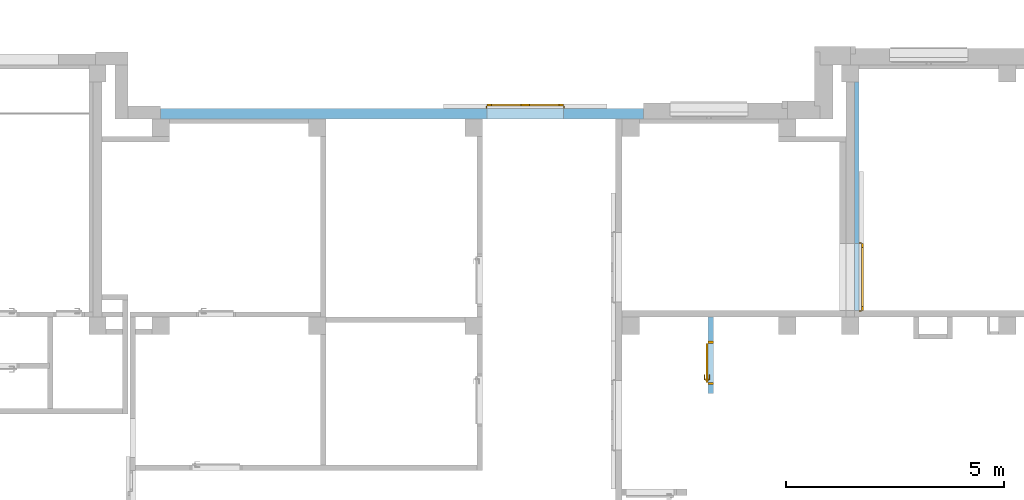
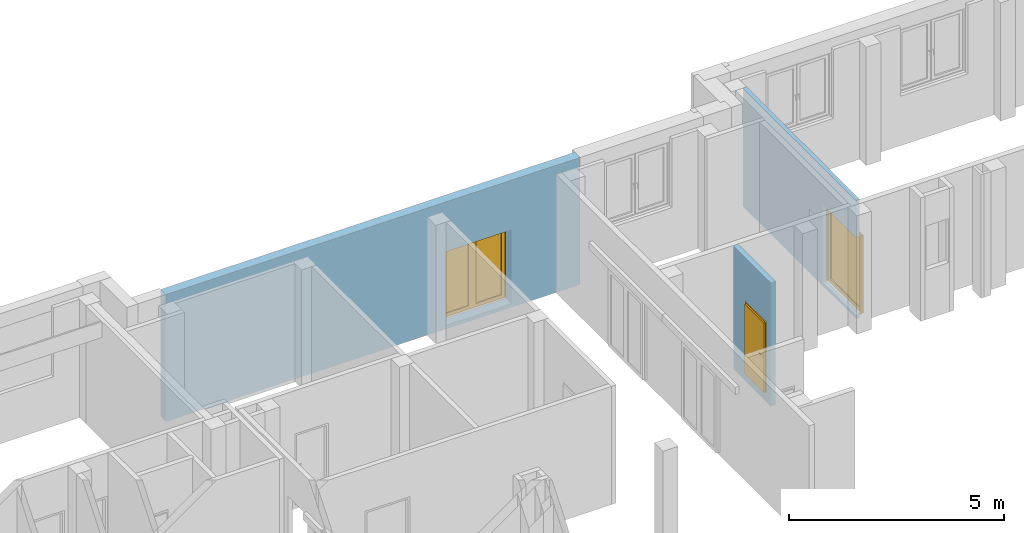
# One storey, part 31 of 37: 3 doors, 3 openings, plus 3 elements that do not belong to this part.
"""IFC4 building model written with IfcOpenShell, lengths in metres."""

from ifc_helpers import new_model, entity, si_unit, converted_unit, derived_unit, frame, frame_2d, origin, origin_with_axes, place, context, subcontext, project, spatial, polyline, rectangle, outline, extrude, closed_shell, open_shell, surface_model, source, transform, mapped, material, layer, layer_set, layer_usage, type_object, element, fill, save


model = new_model("IFC4")

# Units and contexts
model_context = context("Model", 3, precision=1e-05, world=origin())
body_context = subcontext(model_context, "Body", "Model", "MODEL_VIEW")
ifc_project = project(units=[si_unit("LENGTHUNIT", "METRE"), si_unit("AREAUNIT", "SQUARE_METRE"), si_unit("VOLUMEUNIT", "CUBIC_METRE"), si_unit("MASSUNIT", "GRAM", prefix="KILO"), converted_unit("PLANEANGLEUNIT", "DEGREE", entity("IfcPlaneAngleMeasure", 0.0174532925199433), si_unit("PLANEANGLEUNIT", "RADIAN"), dimensions=[0, 0, 0, 0, 0, 0, 0]), derived_unit("THERMALTRANSMITTANCEUNIT", [(si_unit("POWERUNIT", "WATT"), 1), (si_unit("THERMODYNAMICTEMPERATUREUNIT", "KELVIN"), -1), (si_unit("LENGTHUNIT", "METRE"), -2)]), derived_unit("VOLUMETRICFLOWRATEUNIT", [(si_unit("LENGTHUNIT", "METRE"), 3), (converted_unit("TIMEUNIT", "hour", entity("IfcTimeMeasure", 3600.0), si_unit("TIMEUNIT", "SECOND"), dimensions=[0, 0, 1, 0, 0, 0, 0]), -1), (si_unit("LENGTHUNIT", "METRE"), -1)])], contexts=[model_context])

# Site, building, storey
site_placement = place(None, origin())
site = spatial("IfcSite", under=ifc_project, at=site_placement, Name="3. ASŘ", CompositionType="ELEMENT")
building_placement = place(site_placement, origin())
building = spatial("IfcBuilding", under=site, at=building_placement, Name="Pavilon B", CompositionType="ELEMENT")
storey_placement = place(building_placement, origin())
storey = spatial("IfcBuildingStorey", under=building, at=storey_placement, Name="Půdorys 1.NP", CompositionType="ELEMENT", Elevation=0.0)

# Wall, opening, door
ifc_material_1 = material(Name="ZELEZOBETONOVÁ KCE")
ifc_layer_1 = layer(ifc_material_1, 0.249999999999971)
ifc_layer_set_1 = layer_set([ifc_layer_1])
ifc_layer_usage_1 = layer_usage(ifc_layer_set_1, "AXIS2", "POSITIVE", 0.0)
wall_1_placement = place(storey_placement, frame((33.25, -16.85, -0.1)))
wall_1 = element("IfcWall", 1, at=wall_1_placement, inside=storey, material=ifc_layer_usage_1, Name="ZELEZOBETONOVÁ KCE", context=body_context, shape_type="SweptSolid", body=[
    extrude(rectangle(XDim=11.1, YDim=0.249999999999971, at=frame_2d((5.55, 0.124999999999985), x_axis=(1.0, 0.0))), origin_with_axes(), (0.0, 0.0, 1.0), 3.6),
])
opening_1_placement = place(wall_1_placement, frame((9.26, 0.249999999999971, 0.1), z_axis=(0.0, -1.0, 0.0), x_axis=(0.0, 0.0, 1.0)))
opening_1 = element("IfcOpeningElement", 2, at=opening_1_placement, cuts=wall_1, Name="Dveřní otvor", ObjectType="Opening", context=body_context, shape_type="SweptSolid", body=[
    extrude(outline(polyline([(0.0, 1.76), (2.1, 1.76), (2.1, 0.0), (0.0, 0.0), (0.0, 1.76)])), origin_with_axes(), (0.0, 0.0, 1.0), 0.249999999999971),
])
door_type_1 = type_object("IfcDoorType", Name="D401", OperationType="NOTDEFINED", ParameterTakesPrecedence=False, PredefinedType="DOOR")
shared_shape_1 = source(origin_with_axes(), body_context, "Body", "SurfaceModel", [
    surface_model("IfcShellBasedSurfaceModel", [(0.0, 0.0500000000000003, 2.12), (0.0, 0.05, 1.11492377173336e-17), (0.02, 0.05, 1.11492377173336e-17), (0.02, 0.0500000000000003, 2.12), (0.0, 0.0, 1.72724717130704e-17), (0.0, 2.62900812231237e-16, 2.12), (0.02, 2.62900812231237e-16, 2.12), (0.02, 0.0, 1.72724717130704e-17)], [closed_shell([[[0, 1, 2, 3]], [[4, 5, 6, 7]], [[1, 0, 5, 4]], [[2, 1, 4, 7]], [[3, 2, 7, 6]], [[0, 3, 6, 5]]], orient=[[False], [False], [False], [False], [False], [False]])]),
    surface_model("IfcShellBasedSurfaceModel", [(1.78, 0.0500000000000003, 2.12), (1.78, 0.05, 1.11492377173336e-17), (1.8, 0.05, 1.11492377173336e-17), (1.8, 0.0500000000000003, 2.12), (1.78, 0.0, 1.72724717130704e-17), (1.78, 2.62900812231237e-16, 2.12), (1.8, 2.62900812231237e-16, 2.12), (1.8, 0.0, 1.72724717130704e-17)], [closed_shell([[[0, 1, 2, 3]], [[4, 5, 6, 7]], [[1, 0, 5, 4]], [[2, 1, 4, 7]], [[3, 2, 7, 6]], [[0, 3, 6, 5]]], orient=[[False], [False], [False], [False], [False], [False]])]),
    surface_model("IfcShellBasedSurfaceModel", [(0.02, 0.0500000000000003, 2.12), (0.02, 0.0500000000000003, 2.1), (1.78, 0.0500000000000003, 2.1), (1.78, 0.0500000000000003, 2.12), (0.02, 2.55795384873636e-16, 2.1), (0.02, 2.55795384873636e-16, 2.12), (1.78, 2.55795384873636e-16, 2.12), (1.78, 2.55795384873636e-16, 2.1)], [closed_shell([[[0, 1, 2, 3]], [[4, 5, 6, 7]], [[1, 0, 5, 4]], [[2, 1, 4, 7]], [[3, 2, 7, 6]], [[0, 3, 6, 5]]], orient=[[False], [False], [False], [False], [False], [False]])]),
    surface_model("IfcShellBasedSurfaceModel", [(0.02, 0.1, 2.1), (0.02, 0.1, 5.02600372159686e-18), (0.12, 0.1, 5.02600372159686e-18), (0.12, 0.1, 2.1), (0.02, 0.05, 1.11492377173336e-17), (0.02, 0.0500000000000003, 2.1), (0.12, 0.0500000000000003, 2.1), (0.12, 0.05, 1.11492377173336e-17)], [closed_shell([[[0, 1, 2, 3]], [[4, 5, 6, 7]], [[1, 0, 5, 4]], [[2, 1, 4, 7]], [[3, 2, 7, 6]], [[0, 3, 6, 5]]], orient=[[False], [False], [False], [False], [False], [False]])]),
    surface_model("IfcShellBasedSurfaceModel", [(0.7995, 0.1, 2.1), (0.7995, 0.1, 5.02600372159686e-18), (0.8995, 0.1, 5.02600372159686e-18), (0.8995, 0.1, 2.1), (0.7995, 0.05, 1.11492377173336e-17), (0.7995, 0.0500000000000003, 2.1), (0.8995, 0.0500000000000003, 2.1), (0.8995, 0.05, 1.11492377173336e-17)], [closed_shell([[[0, 1, 2, 3]], [[4, 5, 6, 7]], [[1, 0, 5, 4]], [[2, 1, 4, 7]], [[3, 2, 7, 6]], [[0, 3, 6, 5]]], orient=[[False], [False], [False], [False], [False], [False]])]),
    surface_model("IfcShellBasedSurfaceModel", [(0.12, 0.1, 0.1), (0.12, 0.1, 5.02600372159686e-18), (0.7995, 0.1, 5.02600372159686e-18), (0.7995, 0.1, 0.1), (0.12, 0.05, 1.11492377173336e-17), (0.12, 0.05, 0.1), (0.7995, 0.05, 0.1), (0.7995, 0.05, 1.11492377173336e-17)], [closed_shell([[[0, 1, 2, 3]], [[4, 5, 6, 7]], [[1, 0, 5, 4]], [[2, 1, 4, 7]], [[3, 2, 7, 6]], [[0, 3, 6, 5]]], orient=[[False], [False], [False], [False], [False], [False]])]),
    surface_model("IfcShellBasedSurfaceModel", [(0.12, 0.1, 2.1), (0.12, 0.1, 2.0), (0.7995, 0.1, 2.0), (0.7995, 0.1, 2.1), (0.12, 0.0500000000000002, 2.0), (0.12, 0.0500000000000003, 2.1), (0.7995, 0.0500000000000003, 2.1), (0.7995, 0.0500000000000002, 2.0)], [closed_shell([[[0, 1, 2, 3]], [[4, 5, 6, 7]], [[1, 0, 5, 4]], [[2, 1, 4, 7]], [[3, 2, 7, 6]], [[0, 3, 6, 5]]], orient=[[False], [False], [False], [False], [False], [False]])]),
    surface_model("IfcShellBasedSurfaceModel", [(0.9005, 0.1, 2.1), (0.9005, 0.1, 5.02600372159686e-18), (1.0005, 0.1, 5.02600372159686e-18), (1.0005, 0.1, 2.1), (0.9005, 0.05, 1.11492377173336e-17), (0.9005, 0.0500000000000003, 2.1), (1.0005, 0.0500000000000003, 2.1), (1.0005, 0.05, 1.11492377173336e-17)], [closed_shell([[[0, 1, 2, 3]], [[4, 5, 6, 7]], [[1, 0, 5, 4]], [[2, 1, 4, 7]], [[3, 2, 7, 6]], [[0, 3, 6, 5]]], orient=[[False], [False], [False], [False], [False], [False]])]),
    surface_model("IfcShellBasedSurfaceModel", [(1.68, 0.1, 2.1), (1.68, 0.1, 5.02600372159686e-18), (1.78, 0.1, 5.02600372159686e-18), (1.78, 0.1, 2.1), (1.68, 0.05, 1.11492377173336e-17), (1.68, 0.0500000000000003, 2.1), (1.78, 0.0500000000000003, 2.1), (1.78, 0.05, 1.11492377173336e-17)], [closed_shell([[[0, 1, 2, 3]], [[4, 5, 6, 7]], [[1, 0, 5, 4]], [[2, 1, 4, 7]], [[3, 2, 7, 6]], [[0, 3, 6, 5]]], orient=[[False], [False], [False], [False], [False], [False]])]),
    surface_model("IfcShellBasedSurfaceModel", [(1.0005, 0.1, 0.1), (1.0005, 0.1, 5.02600372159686e-18), (1.68, 0.1, 5.02600372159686e-18), (1.68, 0.1, 0.1), (1.0005, 0.05, 1.11492377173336e-17), (1.0005, 0.05, 0.1), (1.68, 0.05, 0.1), (1.68, 0.05, 1.11492377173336e-17)], [closed_shell([[[0, 1, 2, 3]], [[4, 5, 6, 7]], [[1, 0, 5, 4]], [[2, 1, 4, 7]], [[3, 2, 7, 6]], [[0, 3, 6, 5]]], orient=[[False], [False], [False], [False], [False], [False]])]),
    surface_model("IfcShellBasedSurfaceModel", [(1.0005, 0.1, 2.1), (1.0005, 0.1, 2.0), (1.68, 0.1, 2.0), (1.68, 0.1, 2.1), (1.0005, 0.0500000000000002, 2.0), (1.0005, 0.0500000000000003, 2.1), (1.68, 0.0500000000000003, 2.1), (1.68, 0.0500000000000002, 2.0)], [closed_shell([[[0, 1, 2, 3]], [[4, 5, 6, 7]], [[1, 0, 5, 4]], [[2, 1, 4, 7]], [[3, 2, 7, 6]], [[0, 3, 6, 5]]], orient=[[False], [False], [False], [False], [False], [False]])]),
    surface_model("IfcShellBasedSurfaceModel", [(1.0005, 0.075, 0.1), (1.68, 0.075, 0.1), (1.68, 0.0750000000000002, 2.0), (1.0005, 0.0750000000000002, 2.0)], [open_shell([[[0, 1, 2, 3]]], orient=[[False]])]),
    surface_model("IfcShellBasedSurfaceModel", [(0.12, 0.075, 0.1), (0.7995, 0.075, 0.1), (0.7995, 0.0750000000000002, 2.0), (0.12, 0.0750000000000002, 2.0)], [open_shell([[[0, 1, 2, 3]]], orient=[[False]])]),
])
door_1_placement = place(opening_1_placement, frame((0.0, -0.02, 0.0), z_axis=(1.0, 0.0, 0.0), x_axis=(0.0, 1.0, -2.44929359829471e-16)))
door_1 = element("IfcDoor", 3, at=door_1_placement, inside=storey, type_object=door_type_1, Name="D401", OverallHeight=2.14, OverallWidth=1.84, context=body_context, shape_type="MappedRepresentation", body=[
    mapped(shared_shape_1, transform((0.0, 0.0, 0.0), x_axis=(1.0, 0.0, 0.0), y_axis=(0.0, -1.0, 0.0), z_axis=(0.0, 0.0, 1.0), scale=1.0)),
])
fill(opening_1, door_1)

ifc_material_2 = material(Name="YTONG 125")
ifc_layer_2 = layer(ifc_material_2, 0.125)
ifc_layer_set_2 = layer_set([ifc_layer_2])
ifc_layer_usage_2 = layer_usage(ifc_layer_set_2, "AXIS2", "POSITIVE", 0.0)
wall_2_placement = place(storey_placement, frame((45.825, -21.4, -0.25), z_axis=(0.0, 0.0, 1.0), x_axis=(0.0, -1.0, 0.0)))
wall_2 = element("IfcWall", 4, at=wall_2_placement, inside=storey, material=ifc_layer_usage_2, Name="YTONG 125", context=body_context, shape_type="SweptSolid", body=[
    extrude(rectangle(XDim=1.75, YDim=0.125, at=frame_2d((0.875, 0.0625), x_axis=(1.0, 0.0))), origin_with_axes(), (0.0, 0.0, 1.0), 3.5),
])
opening_2_placement = place(wall_2_placement, frame((1.55000000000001, 0.125, 0.25), z_axis=(0.0, -1.0, 0.0), x_axis=(0.0, 0.0, 1.0)))
opening_2 = element("IfcOpeningElement", 5, at=opening_2_placement, cuts=wall_2, Name="Dveřní otvor", ObjectType="Opening", context=body_context, shape_type="SweptSolid", body=[
    extrude(outline(polyline([(0.0, 1.0), (2.02, 1.0), (2.02, 0.0), (0.0, 0.0), (0.0, 1.0)])), origin_with_axes(), (0.0, 0.0, 1.0), 0.125),
])
door_type_2 = type_object("IfcDoorType", Name="D101", OperationType="NOTDEFINED", ParameterTakesPrecedence=False, PredefinedType="DOOR")
shared_shape_2 = source(origin_with_axes(), body_context, "Body", "SurfaceModel", [
    surface_model("IfcShellBasedSurfaceModel", [(0.0, 0.125, 2.02), (0.0, 0.125, -7.65404249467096e-18), (0.05, 0.125, -7.65404249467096e-18), (0.05, 0.125, 2.02), (0.0, 0.0, 7.65404249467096e-18), (0.0, 2.41584530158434e-16, 2.02), (0.05, 2.41584530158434e-16, 2.02), (0.05, 0.0, 7.65404249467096e-18)], [closed_shell([[[0, 1, 2, 3]], [[4, 5, 6, 7]], [[1, 0, 5, 4]], [[2, 1, 4, 7]], [[3, 2, 7, 6]], [[0, 3, 6, 5]]], orient=[[False], [False], [False], [False], [False], [False]])]),
    surface_model("IfcShellBasedSurfaceModel", [(0.95, 0.125, 2.02), (0.95, 0.125, -7.65404249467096e-18), (1.0, 0.125, -7.65404249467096e-18), (1.0, 0.125, 2.02), (0.95, 0.0, 7.65404249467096e-18), (0.95, 2.41584530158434e-16, 2.02), (1.0, 2.41584530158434e-16, 2.02), (1.0, 0.0, 7.65404249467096e-18)], [closed_shell([[[0, 1, 2, 3]], [[4, 5, 6, 7]], [[1, 0, 5, 4]], [[2, 1, 4, 7]], [[3, 2, 7, 6]], [[0, 3, 6, 5]]], orient=[[False], [False], [False], [False], [False], [False]])]),
    surface_model("IfcShellBasedSurfaceModel", [(0.05, 0.125, 2.02), (0.05, 0.125, 1.97), (0.95, 0.125, 1.97), (0.95, 0.125, 2.02), (0.05, 2.41584530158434e-16, 1.97), (0.05, 2.41584530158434e-16, 2.02), (0.95, 2.41584530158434e-16, 2.02), (0.95, 2.41584530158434e-16, 1.97)], [closed_shell([[[0, 1, 2, 3]], [[4, 5, 6, 7]], [[1, 0, 5, 4]], [[2, 1, 4, 7]], [[3, 2, 7, 6]], [[0, 3, 6, 5]]], orient=[[False], [False], [False], [False], [False], [False]])]),
    surface_model("IfcShellBasedSurfaceModel", [(0.05, 0.165, 1.97), (0.05, 0.165, -1.25526296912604e-17), (0.95, 0.165, -1.25526296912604e-17), (0.95, 0.165, 1.97), (0.05, 0.125, -7.65404249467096e-18), (0.05, 0.125, 1.97), (0.95, 0.125, 1.97), (0.95, 0.125, -7.65404249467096e-18)], [closed_shell([[[0, 1, 2, 3]], [[4, 5, 6, 7]], [[1, 0, 5, 4]], [[2, 1, 4, 7]], [[3, 2, 7, 6]], [[0, 3, 6, 5]]], orient=[[False], [False], [False], [False], [False], [False]])]),
    surface_model("IfcShellBasedSurfaceModel", [(0.908815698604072, 0.125, 0.93625), (0.9125, 0.125, 0.95), (0.908815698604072, 0.125, 0.96375), (0.89875, 0.125, 0.973815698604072), (0.885, 0.125, 0.9775), (0.87125, 0.125, 0.973815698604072), (0.861184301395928, 0.125, 0.96375), (0.8575, 0.125, 0.95), (0.861184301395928, 0.125, 0.93625), (0.87125, 0.125, 0.926184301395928), (0.885, 0.125, 0.9225), (0.89875, 0.125, 0.926184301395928), (0.9125, 0.1125, 0.95), (0.908815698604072, 0.1125, 0.93625), (0.89875, 0.1125, 0.926184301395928), (0.885, 0.1125, 0.9225), (0.87125, 0.1125, 0.926184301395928), (0.861184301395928, 0.1125, 0.93625), (0.8575, 0.1125, 0.95), (0.861184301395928, 0.1125, 0.96375), (0.87125, 0.1125, 0.973815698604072), (0.885, 0.1125, 0.9775), (0.89875, 0.1125, 0.973815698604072), (0.908815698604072, 0.1125, 0.96375)], [closed_shell([[[0, 1, 2, 3, 4, 5, 6, 7, 8, 9, 10, 11]], [[12, 13, 14, 15, 16, 17, 18, 19, 20, 21, 22, 23]], [[1, 0, 13, 12]], [[2, 1, 12, 23]], [[3, 2, 23, 22]], [[4, 3, 22, 21]], [[5, 4, 21, 20]], [[6, 5, 20, 19]], [[7, 6, 19, 18]], [[8, 7, 18, 17]], [[9, 8, 17, 16]], [[10, 9, 16, 15]], [[11, 10, 15, 14]], [[0, 11, 14, 13]]], orient=[[False], [False], [False], [False], [False], [False], [False], [False], [False], [False], [False], [False], [False], [False]])]),
    surface_model("IfcShellBasedSurfaceModel", [(0.908815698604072, 0.125, 1.03625), (0.9125, 0.125, 1.05), (0.908815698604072, 0.125, 1.06375), (0.89875, 0.125, 1.07381569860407), (0.885, 0.125, 1.0775), (0.87125, 0.125, 1.07381569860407), (0.861184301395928, 0.125, 1.06375), (0.8575, 0.125, 1.05), (0.861184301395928, 0.125, 1.03625), (0.87125, 0.125, 1.02618430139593), (0.885, 0.125, 1.0225), (0.89875, 0.125, 1.02618430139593), (0.9125, 0.1125, 1.05), (0.908815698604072, 0.1125, 1.03625), (0.89875, 0.1125, 1.02618430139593), (0.885, 0.1125, 1.0225), (0.87125, 0.1125, 1.02618430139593), (0.861184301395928, 0.1125, 1.03625), (0.8575, 0.1125, 1.05), (0.861184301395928, 0.1125, 1.06375), (0.87125, 0.1125, 1.07381569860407), (0.885, 0.1125, 1.0775), (0.89875, 0.1125, 1.07381569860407), (0.908815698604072, 0.1125, 1.06375)], [closed_shell([[[0, 1, 2, 3, 4, 5, 6, 7, 8, 9, 10, 11]], [[12, 13, 14, 15, 16, 17, 18, 19, 20, 21, 22, 23]], [[1, 0, 13, 12]], [[2, 1, 12, 23]], [[3, 2, 23, 22]], [[4, 3, 22, 21]], [[5, 4, 21, 20]], [[6, 5, 20, 19]], [[7, 6, 19, 18]], [[8, 7, 18, 17]], [[9, 8, 17, 16]], [[10, 9, 16, 15]], [[11, 10, 15, 14]], [[0, 11, 14, 13]]], orient=[[False], [False], [False], [False], [False], [False], [False], [False], [False], [False], [False], [False], [False], [False]])]),
    surface_model("IfcShellBasedSurfaceModel", [(0.885, 0.125, 1.06), (0.88, 0.125, 1.05866025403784), (0.876339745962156, 0.125, 1.055), (0.875, 0.125, 1.05), (0.876339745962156, 0.125, 1.045), (0.88, 0.125, 1.04133974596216), (0.885, 0.125, 1.04), (0.89, 0.125, 1.04133974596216), (0.893660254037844, 0.125, 1.045), (0.895, 0.125, 1.05), (0.893660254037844, 0.125, 1.055), (0.89, 0.125, 1.05866025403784), (0.89, 0.0800000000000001, 1.05866025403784), (0.885, 0.0850000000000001, 1.06), (0.893660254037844, 0.0763397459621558, 1.055), (0.895, 0.0750000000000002, 1.05), (0.893660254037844, 0.0763397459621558, 1.045), (0.89, 0.0800000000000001, 1.04133974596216), (0.885, 0.0850000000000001, 1.04), (0.88, 0.0900000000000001, 1.04133974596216), (0.876339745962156, 0.0936602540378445, 1.045), (0.875, 0.0950000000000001, 1.05), (0.876339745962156, 0.0936602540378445, 1.055), (0.88, 0.0900000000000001, 1.05866025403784), (0.77, 0.0800000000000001, 1.05866025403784), (0.77, 0.0850000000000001, 1.06), (0.77, 0.0763397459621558, 1.055), (0.77, 0.0750000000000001, 1.05), (0.77, 0.0763397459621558, 1.045), (0.77, 0.0800000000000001, 1.04133974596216), (0.77, 0.0850000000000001, 1.04), (0.77, 0.0900000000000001, 1.04133974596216), (0.77, 0.0936602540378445, 1.045), (0.77, 0.0950000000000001, 1.05), (0.77, 0.0936602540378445, 1.055), (0.77, 0.0900000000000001, 1.05866025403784)], [open_shell([[[0, 1, 2, 3, 4, 5, 6, 7, 8, 9, 10, 11]], [[0, 11, 12, 13]], [[11, 10, 14, 12]], [[10, 9, 15, 14]], [[9, 8, 16, 15]], [[8, 7, 17, 16]], [[7, 6, 18, 17]], [[6, 5, 19, 18]], [[5, 4, 20, 19]], [[4, 3, 21, 20]], [[3, 2, 22, 21]], [[2, 1, 23, 22]], [[1, 0, 13, 23]], [[13, 12, 24, 25]], [[12, 14, 26, 24]], [[14, 15, 27, 26]], [[15, 16, 28, 27]], [[16, 17, 29, 28]], [[17, 18, 30, 29]], [[18, 19, 31, 30]], [[19, 20, 32, 31]], [[20, 21, 33, 32]], [[21, 22, 34, 33]], [[22, 23, 35, 34]], [[23, 13, 25, 35]]], orient=[[False], [False], [False], [False], [False], [False], [False], [False], [False], [False], [False], [False], [False], [False], [False], [False], [False], [False], [False], [False], [False], [False], [False], [False], [False]])]),
    surface_model("IfcShellBasedSurfaceModel", [(0.908815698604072, 0.165, 0.93625), (0.89875, 0.165, 0.926184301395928), (0.885, 0.165, 0.9225), (0.87125, 0.165, 0.926184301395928), (0.861184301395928, 0.165, 0.93625), (0.8575, 0.165, 0.95), (0.861184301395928, 0.165, 0.96375), (0.87125, 0.165, 0.973815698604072), (0.885, 0.165, 0.9775), (0.89875, 0.165, 0.973815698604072), (0.908815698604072, 0.165, 0.96375), (0.9125, 0.165, 0.95), (0.9125, 0.1775, 0.95), (0.908815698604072, 0.1775, 0.96375), (0.89875, 0.1775, 0.973815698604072), (0.885, 0.1775, 0.9775), (0.87125, 0.1775, 0.973815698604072), (0.861184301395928, 0.1775, 0.96375), (0.8575, 0.1775, 0.95), (0.861184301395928, 0.1775, 0.93625), (0.87125, 0.1775, 0.926184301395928), (0.885, 0.1775, 0.9225), (0.89875, 0.1775, 0.926184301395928), (0.908815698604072, 0.1775, 0.93625)], [closed_shell([[[0, 1, 2, 3, 4, 5, 6, 7, 8, 9, 10, 11]], [[12, 13, 14, 15, 16, 17, 18, 19, 20, 21, 22, 23]], [[11, 12, 23, 0]], [[10, 13, 12, 11]], [[9, 14, 13, 10]], [[8, 15, 14, 9]], [[7, 16, 15, 8]], [[6, 17, 16, 7]], [[5, 18, 17, 6]], [[4, 19, 18, 5]], [[3, 20, 19, 4]], [[2, 21, 20, 3]], [[1, 22, 21, 2]], [[0, 23, 22, 1]]], orient=[[False], [False], [False], [False], [False], [False], [False], [False], [False], [False], [False], [False], [False], [False]])]),
    surface_model("IfcShellBasedSurfaceModel", [(0.908815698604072, 0.165, 1.03625), (0.89875, 0.165, 1.02618430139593), (0.885, 0.165, 1.0225), (0.87125, 0.165, 1.02618430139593), (0.861184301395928, 0.165, 1.03625), (0.8575, 0.165, 1.05), (0.861184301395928, 0.165, 1.06375), (0.87125, 0.165, 1.07381569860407), (0.885, 0.165, 1.0775), (0.89875, 0.165, 1.07381569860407), (0.908815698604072, 0.165, 1.06375), (0.9125, 0.165, 1.05), (0.9125, 0.1775, 1.05), (0.908815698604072, 0.1775, 1.06375), (0.89875, 0.1775, 1.07381569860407), (0.885, 0.1775, 1.0775), (0.87125, 0.1775, 1.07381569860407), (0.861184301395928, 0.1775, 1.06375), (0.8575, 0.1775, 1.05), (0.861184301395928, 0.1775, 1.03625), (0.87125, 0.1775, 1.02618430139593), (0.885, 0.1775, 1.0225), (0.89875, 0.1775, 1.02618430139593), (0.908815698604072, 0.1775, 1.03625)], [closed_shell([[[0, 1, 2, 3, 4, 5, 6, 7, 8, 9, 10, 11]], [[12, 13, 14, 15, 16, 17, 18, 19, 20, 21, 22, 23]], [[11, 12, 23, 0]], [[10, 13, 12, 11]], [[9, 14, 13, 10]], [[8, 15, 14, 9]], [[7, 16, 15, 8]], [[6, 17, 16, 7]], [[5, 18, 17, 6]], [[4, 19, 18, 5]], [[3, 20, 19, 4]], [[2, 21, 20, 3]], [[1, 22, 21, 2]], [[0, 23, 22, 1]]], orient=[[False], [False], [False], [False], [False], [False], [False], [False], [False], [False], [False], [False], [False], [False]])]),
    surface_model("IfcShellBasedSurfaceModel", [(0.885, 0.165, 1.06), (0.89, 0.165, 1.05866025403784), (0.893660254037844, 0.165, 1.055), (0.895, 0.165, 1.05), (0.893660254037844, 0.165, 1.045), (0.89, 0.165, 1.04133974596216), (0.885, 0.165, 1.04), (0.88, 0.165, 1.04133974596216), (0.876339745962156, 0.165, 1.045), (0.875, 0.165, 1.05), (0.876339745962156, 0.165, 1.055), (0.88, 0.165, 1.05866025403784), (0.885, 0.205, 1.06), (0.89, 0.21, 1.05866025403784), (0.893660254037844, 0.213660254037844, 1.055), (0.895, 0.215, 1.05), (0.893660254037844, 0.213660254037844, 1.045), (0.89, 0.21, 1.04133974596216), (0.885, 0.205, 1.04), (0.88, 0.2, 1.04133974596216), (0.876339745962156, 0.196339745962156, 1.045), (0.875, 0.195, 1.05), (0.876339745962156, 0.196339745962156, 1.055), (0.88, 0.2, 1.05866025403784), (0.77, 0.205, 1.06), (0.77, 0.21, 1.05866025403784), (0.77, 0.213660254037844, 1.055), (0.77, 0.215, 1.05), (0.77, 0.213660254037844, 1.045), (0.77, 0.21, 1.04133974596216), (0.77, 0.205, 1.04), (0.77, 0.2, 1.04133974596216), (0.77, 0.196339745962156, 1.045), (0.77, 0.195, 1.05), (0.77, 0.196339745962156, 1.055), (0.77, 0.2, 1.05866025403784)], [open_shell([[[0, 1, 2, 3, 4, 5, 6, 7, 8, 9, 10, 11]], [[0, 12, 13, 1]], [[1, 13, 14, 2]], [[2, 14, 15, 3]], [[3, 15, 16, 4]], [[4, 16, 17, 5]], [[5, 17, 18, 6]], [[6, 18, 19, 7]], [[7, 19, 20, 8]], [[8, 20, 21, 9]], [[9, 21, 22, 10]], [[10, 22, 23, 11]], [[11, 23, 12, 0]], [[12, 24, 25, 13]], [[13, 25, 26, 14]], [[14, 26, 27, 15]], [[15, 27, 28, 16]], [[16, 28, 29, 17]], [[17, 29, 30, 18]], [[18, 30, 31, 19]], [[19, 31, 32, 20]], [[20, 32, 33, 21]], [[21, 33, 34, 22]], [[22, 34, 35, 23]], [[23, 35, 24, 12]]], orient=[[False], [False], [False], [False], [False], [False], [False], [False], [False], [False], [False], [False], [False], [False], [False], [False], [False], [False], [False], [False], [False], [False], [False], [False], [False]])]),
])
door_2_placement = place(opening_2_placement, frame((0.0, 1.00000000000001, 1.45519152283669e-14), z_axis=(1.0, 0.0, 0.0), x_axis=(0.0, -1.0, 1.22464679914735e-16)))
door_2 = element("IfcDoor", 6, at=door_2_placement, inside=storey, type_object=door_type_2, Name="D101", OverallHeight=2.02, OverallWidth=1.0, context=body_context, shape_type="MappedRepresentation", body=[
    mapped(shared_shape_2, transform((0.0, 0.0, 0.0), x_axis=(1.0, 0.0, 0.0), y_axis=(0.0, -1.0, 0.0), z_axis=(0.0, 0.0, 1.0), scale=1.0)),
])
fill(opening_2, door_2)

ifc_material_3 = material(Name="PÓROBETONOVÉ ZDIVO")
ifc_layer_3 = layer(ifc_material_3, 0.1)
ifc_layer_set_3 = layer_set([ifc_layer_3])
ifc_layer_usage_3 = layer_usage(ifc_layer_set_3, "AXIS2", "POSITIVE", 0.0)
wall_3_placement = place(storey_placement, frame((49.2, -16.0, -0.1), z_axis=(0.0, 0.0, 1.0), x_axis=(0.0, -1.0, 0.0)))
wall_3 = element("IfcWall", 7, at=wall_3_placement, inside=storey, material=ifc_layer_usage_3, Name="PÓROBETONOVÉ ZDIVO", context=body_context, shape_type="SweptSolid", body=[
    extrude(rectangle(XDim=5.25, YDim=0.1, at=frame_2d((2.625, 0.05), x_axis=(1.0, 0.0))), origin_with_axes(), (0.0, 0.0, 1.0), 3.35),
])
opening_3_placement = place(wall_3_placement, frame((5.25, 0.1, 0.1), z_axis=(0.0, -1.0, 0.0), x_axis=(0.0, 0.0, 1.0)))
opening_3 = element("IfcOpeningElement", 8, at=opening_3_placement, cuts=wall_3, Name="Dveřní otvor", ObjectType="Opening", context=body_context, shape_type="SweptSolid", body=[
    extrude(outline(polyline([(0.0, 1.55), (2.2, 1.55), (2.2, 0.0), (0.0, 0.0), (0.0, 1.55)])), origin_with_axes(), (0.0, 0.0, 1.0), 0.1),
])
door_type_3 = type_object("IfcDoorType", Name="D401", OperationType="NOTDEFINED", ParameterTakesPrecedence=False, PredefinedType="DOOR")
shared_shape_3 = source(origin_with_axes(), body_context, "Body", "SurfaceModel", [
    surface_model("IfcShellBasedSurfaceModel", [(0.0, 0.0500000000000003, 2.22), (0.0, 0.05, 1.11492377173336e-17), (0.02, 0.05, 1.11492377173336e-17), (0.02, 0.0500000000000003, 2.22), (0.0, 0.0, 1.72724717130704e-17), (0.0, 2.70006239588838e-16, 2.22), (0.02, 2.70006239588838e-16, 2.22), (0.02, 0.0, 1.72724717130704e-17)], [closed_shell([[[0, 1, 2, 3]], [[4, 5, 6, 7]], [[1, 0, 5, 4]], [[2, 1, 4, 7]], [[3, 2, 7, 6]], [[0, 3, 6, 5]]], orient=[[False], [False], [False], [False], [False], [False]])]),
    surface_model("IfcShellBasedSurfaceModel", [(1.57, 0.0500000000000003, 2.22), (1.57, 0.05, 1.11492377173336e-17), (1.59, 0.05, 1.11492377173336e-17), (1.59, 0.0500000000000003, 2.22), (1.57, 0.0, 1.72724717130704e-17), (1.57, 2.70006239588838e-16, 2.22), (1.59, 2.70006239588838e-16, 2.22), (1.59, 0.0, 1.72724717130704e-17)], [closed_shell([[[0, 1, 2, 3]], [[4, 5, 6, 7]], [[1, 0, 5, 4]], [[2, 1, 4, 7]], [[3, 2, 7, 6]], [[0, 3, 6, 5]]], orient=[[False], [False], [False], [False], [False], [False]])]),
    surface_model("IfcShellBasedSurfaceModel", [(0.02, 0.0500000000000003, 2.22), (0.02, 0.0500000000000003, 2.2), (1.57, 0.0500000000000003, 2.2), (1.57, 0.0500000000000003, 2.22), (0.02, 2.70006239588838e-16, 2.2), (0.02, 2.70006239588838e-16, 2.22), (1.57, 2.70006239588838e-16, 2.22), (1.57, 2.70006239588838e-16, 2.2)], [closed_shell([[[0, 1, 2, 3]], [[4, 5, 6, 7]], [[1, 0, 5, 4]], [[2, 1, 4, 7]], [[3, 2, 7, 6]], [[0, 3, 6, 5]]], orient=[[False], [False], [False], [False], [False], [False]])]),
    surface_model("IfcShellBasedSurfaceModel", [(0.02, 0.1, 2.2), (0.02, 0.1, 5.02600372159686e-18), (0.12, 0.1, 5.02600372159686e-18), (0.12, 0.1, 2.2), (0.02, 0.05, 1.11492377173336e-17), (0.02, 0.0500000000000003, 2.2), (0.12, 0.0500000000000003, 2.2), (0.12, 0.05, 1.11492377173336e-17)], [closed_shell([[[0, 1, 2, 3]], [[4, 5, 6, 7]], [[1, 0, 5, 4]], [[2, 1, 4, 7]], [[3, 2, 7, 6]], [[0, 3, 6, 5]]], orient=[[False], [False], [False], [False], [False], [False]])]),
    surface_model("IfcShellBasedSurfaceModel", [(1.47, 0.1, 2.2), (1.47, 0.1, 5.02600372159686e-18), (1.57, 0.1, 5.02600372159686e-18), (1.57, 0.1, 2.2), (1.47, 0.05, 1.11492377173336e-17), (1.47, 0.0500000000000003, 2.2), (1.57, 0.0500000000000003, 2.2), (1.57, 0.05, 1.11492377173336e-17)], [closed_shell([[[0, 1, 2, 3]], [[4, 5, 6, 7]], [[1, 0, 5, 4]], [[2, 1, 4, 7]], [[3, 2, 7, 6]], [[0, 3, 6, 5]]], orient=[[False], [False], [False], [False], [False], [False]])]),
    surface_model("IfcShellBasedSurfaceModel", [(0.12, 0.1, 0.1), (0.12, 0.1, 5.02600372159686e-18), (1.47, 0.1, 5.02600372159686e-18), (1.47, 0.1, 0.1), (0.12, 0.05, 1.11492377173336e-17), (0.12, 0.05, 0.1), (1.47, 0.05, 0.1), (1.47, 0.05, 1.11492377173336e-17)], [closed_shell([[[0, 1, 2, 3]], [[4, 5, 6, 7]], [[1, 0, 5, 4]], [[2, 1, 4, 7]], [[3, 2, 7, 6]], [[0, 3, 6, 5]]], orient=[[False], [False], [False], [False], [False], [False]])]),
    surface_model("IfcShellBasedSurfaceModel", [(0.12, 0.1, 2.2), (0.12, 0.1, 2.1), (1.47, 0.1, 2.1), (1.47, 0.1, 2.2), (0.12, 0.0500000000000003, 2.1), (0.12, 0.0500000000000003, 2.2), (1.47, 0.0500000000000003, 2.2), (1.47, 0.0500000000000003, 2.1)], [closed_shell([[[0, 1, 2, 3]], [[4, 5, 6, 7]], [[1, 0, 5, 4]], [[2, 1, 4, 7]], [[3, 2, 7, 6]], [[0, 3, 6, 5]]], orient=[[False], [False], [False], [False], [False], [False]])]),
    surface_model("IfcShellBasedSurfaceModel", [(0.12, 0.075, 0.1), (1.47, 0.075, 0.1), (1.47, 0.0750000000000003, 2.1), (0.12, 0.0750000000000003, 2.1)], [open_shell([[[0, 1, 2, 3]]], orient=[[False]])]),
])
door_3_placement = place(opening_3_placement, frame((0.0, 1.57000000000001, 1.45519152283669e-14), z_axis=(1.0, 0.0, 0.0), x_axis=(0.0, -1.0, 2.44929359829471e-16)))
door_3 = element("IfcDoor", 9, at=door_3_placement, inside=storey, type_object=door_type_3, Name="D401", OverallHeight=2.24, OverallWidth=1.63, context=body_context, shape_type="MappedRepresentation", body=[
    mapped(shared_shape_3, transform((0.0, 0.0, 0.0), x_axis=(1.0, 0.0, 0.0), y_axis=(0.0, 1.0, 0.0), z_axis=(0.0, 0.0, 1.0), scale=1.0)),
])
fill(opening_3, door_3)

save(model, "model.ifc")
